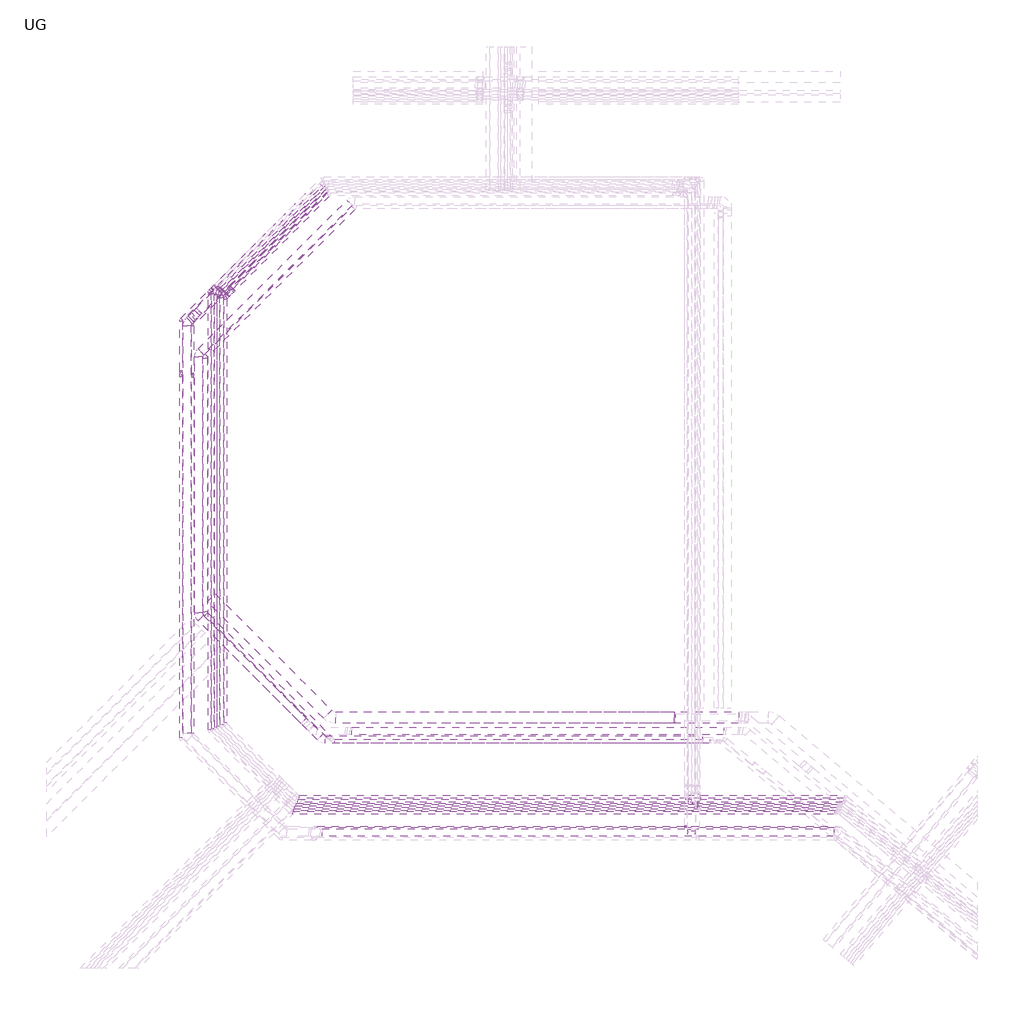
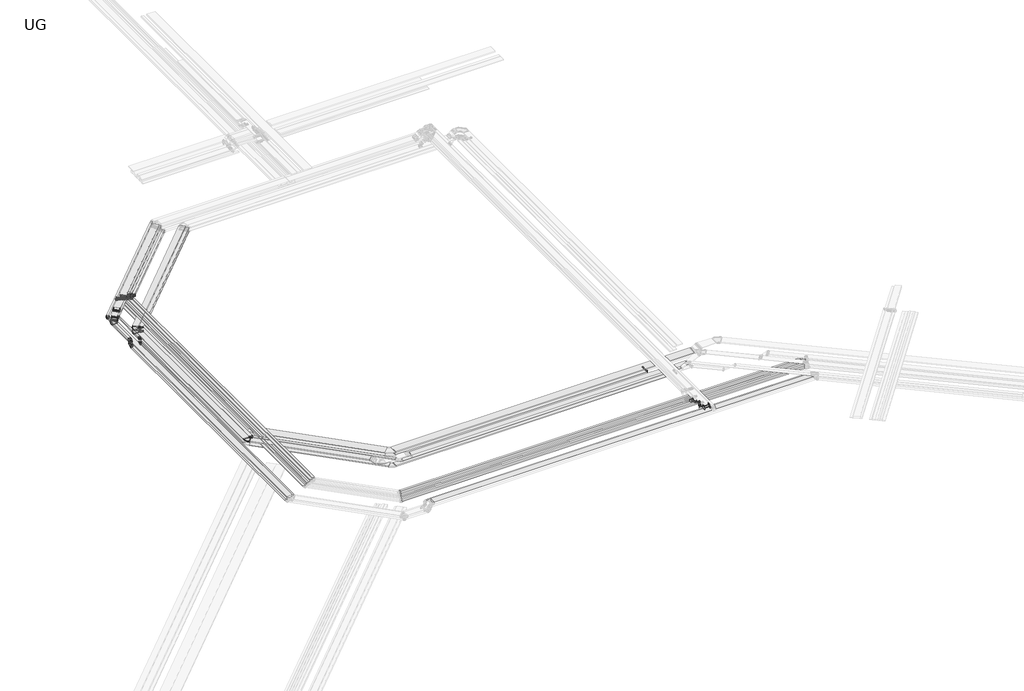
# One storey, part 2 of 14: 65 cable carrier segments, 39 cable carrier fittings.
"""IFC4 building model written with IfcOpenShell, lengths in millimetres."""

from ifc_helpers import new_model, si_unit, frame, origin, place, context, project, spatial, polyline, outline, extrude, transform, mapped, element, save
from components import cable_tray_horizontal_bend_a37de1d9, cable_tray_horizontal_bend_59db2054, cable_tray_horizontal_bend_460281a5, cable_tray_horizontal_bend_41a28480, cable_tray_horizontal_bend_607c76ad, cable_tray_horizontal_bend_0aeb7664, cable_tray_reducer_028fe2a6, cable_tray_vertical_inside_bend_8fcda462, cable_tray_vertical_inside_bend_649f0518, cable_tray_vertical_inside_bend_b78f05e6, cable_tray_vertical_inside_bend_96cfe16a, cable_tray_vertical_inside_bend_28401fa2, cable_tray_vertical_outside_bend_b526f006, cable_tray_vertical_outside_bend_0dbe7b70, cable_tray_vertical_outside_bend_a3d3d836, cable_tray_vertical_outside_bend_43f46f6e, cable_tray_vertical_outside_bend_ce2e8d87, cable_tray_vertical_outside_bend_4bfe5093

model = new_model("IFC4")

# Units and contexts
model_context = context("Model", 3, world=origin())
ifc_project = project(units=[si_unit("LENGTHUNIT", "METRE", prefix="MILLI")], contexts=[model_context])

# Site, building, storey
site = spatial("IfcSite", under=ifc_project)
building = spatial("IfcBuilding", under=site)
storey = spatial("IfcBuildingStorey", under=building, Name="UG", Elevation=7925.0)

# Cable carrier fittings
placement = place(None, origin())
cable_tray_horizontal_bend_shape = cable_tray_horizontal_bend_a37de1d9(model_context)
element("IfcCableCarrierFitting", 1, ObjectType="Cable Tray Horizontal Bend : ELEC_ELV_TKG_N2402", at=placement, inside=storey, context=model_context, shape_type="MappedRepresentation", body=[
    mapped(cable_tray_horizontal_bend_shape, transform((86156.0954238, 59185.2857855, 12725.0), x_axis=(-0.7071067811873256, -0.7071067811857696, 0.0), y_axis=(0.7071067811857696, -0.7071067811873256, 0.0), z_axis=(0.0, 0.0, 1.0))),
])
element("IfcCableCarrierFitting", 2, ObjectType="Cable Tray Horizontal Bend : ELEC_ELV_TKG_N2402", at=placement, inside=storey, context=model_context, shape_type="MappedRepresentation", body=[
    mapped(cable_tray_horizontal_bend_shape, transform((87218.5851935, 60884.1716584, 12674.9999995), x_axis=(-0.7071067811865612, -0.7071067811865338, 0.0), y_axis=(0.7071067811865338, -0.7071067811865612, 0.0), z_axis=(0.0, 0.0, 1.0))),
])
element("IfcCableCarrierFitting", 3, ObjectType="Cable Tray Horizontal Bend : ELEC_ELV_TKG_N2402", at=placement, inside=storey, context=model_context, shape_type="MappedRepresentation", body=[
    mapped(cable_tray_horizontal_bend_shape, transform((87368.5851935, 60822.039624, 12674.9999995), x_axis=(-0.7071067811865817, -0.7071067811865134, 0.0), y_axis=(0.7071067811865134, -0.7071067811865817, 0.0), z_axis=(0.0, 0.0, 1.0))),
])
element("IfcCableCarrierFitting", 4, ObjectType="Cable Tray Horizontal Bend : ELEC_ELV_TKG_N2402", at=placement, inside=storey, context=model_context, shape_type="MappedRepresentation", body=[
    mapped(cable_tray_horizontal_bend_shape, transform((87518.5851935, 60759.9075897, 12674.9999995), x_axis=(-0.7071067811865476, -0.7071067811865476, 0.0), y_axis=(0.7071067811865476, -0.7071067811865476, 0.0), z_axis=(0.0, 0.0, 1.0))),
])
cable_tray_horizontal_bend_2_shape = cable_tray_horizontal_bend_59db2054(model_context)
element("IfcCableCarrierFitting", 5, ObjectType="Cable Tray Horizontal Bend : ELEC_ELV_TKG_N2402", at=placement, inside=storey, context=model_context, shape_type="MappedRepresentation", body=[
    mapped(cable_tray_horizontal_bend_2_shape, transform((85531.0954284, 59444.1692666, 12750.0), x_axis=(-0.707106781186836, -0.7071067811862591, 0.0), y_axis=(0.7071067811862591, -0.707106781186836, 0.0), z_axis=(0.0, 0.0, 1.0))),
])
element("IfcCableCarrierFitting", 6, ObjectType="Cable Tray Horizontal Bend : ELEC_ELV_TKG_N2402", at=placement, inside=storey, context=model_context, shape_type="MappedRepresentation", body=[
    mapped(cable_tray_horizontal_bend_2_shape, transform((87693.5851935, 60687.4202162, 12699.9999995), x_axis=(-0.7071067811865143, -0.7071067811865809, 0.0), y_axis=(0.7071067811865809, -0.7071067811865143, 0.0), z_axis=(0.0, 0.0, 1.0))),
])
element("IfcCableCarrierFitting", 7, ObjectType="Cable Tray Horizontal Bend : ELEC_ELV_TKG_N2402", at=placement, inside=storey, context=model_context, shape_type="MappedRepresentation", body=[
    mapped(cable_tray_horizontal_bend_2_shape, transform((87893.5851935, 60604.5775038, 12699.9999995), x_axis=(-0.7071067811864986, -0.7071067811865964, 0.0), y_axis=(0.7071067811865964, -0.7071067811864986, 0.0), z_axis=(0.0, 0.0, 1.0))),
])
cable_tray_horizontal_bend_3_shape = cable_tray_horizontal_bend_460281a5(model_context)
element("IfcCableCarrierFitting", 8, ObjectType="Cable Tray Horizontal Bend : ELEC_ELV_TKG_N2402", at=placement, inside=storey, context=model_context, shape_type="MappedRepresentation", body=[
    mapped(cable_tray_horizontal_bend_3_shape, transform((85856.0954238, 59309.5498542, 12374.9999951), x_axis=(-0.7071067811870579, -0.7071067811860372, 0.0), y_axis=(0.7071067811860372, -0.7071067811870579, 0.0), z_axis=(0.0, 0.0, 1.0))),
])
cable_tray_horizontal_bend_4_shape = cable_tray_horizontal_bend_41a28480(model_context)
element("IfcCableCarrierFitting", 9, ObjectType="Cable Tray Horizontal Bend : ELEC_SUB_CT_N2402", at=placement, inside=storey, context=model_context, shape_type="MappedRepresentation", body=[
    mapped(cable_tray_horizontal_bend_4_shape, transform((86468.5851906, 57659.2979214, 12700.0), x_axis=(-0.7071067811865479, -0.7071067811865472, 0.0), y_axis=(0.7071067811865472, -0.7071067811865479, 0.0), z_axis=(0.0, 0.0, 1.0))),
])
element("IfcCableCarrierFitting", 10, ObjectType="Cable Tray Horizontal Bend : ELEC_SUB_CT_N2402", at=placement, inside=storey, context=model_context, shape_type="MappedRepresentation", body=[
    mapped(cable_tray_horizontal_bend_4_shape, transform((86468.5851906, 57659.2979214, 12424.9999997), x_axis=(-0.7071067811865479, -0.7071067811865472, 0.0), y_axis=(0.7071067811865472, -0.7071067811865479, 0.0), z_axis=(0.0, 0.0, 1.0))),
])
element("IfcCableCarrierFitting", 11, ObjectType="Cable Tray Horizontal Bend : ELEC_SUB_CT_N2402", at=placement, inside=storey, context=model_context, shape_type="MappedRepresentation", body=[
    mapped(cable_tray_horizontal_bend_4_shape, transform((86468.5851906, 43752.6744262, 12700.0), x_axis=(0.0, -1.0, 0.0), y_axis=(1.0, 0.0, 0.0), z_axis=(0.0, 0.0, 1.0))),
])
cable_tray_horizontal_bend_5_shape = cable_tray_horizontal_bend_607c76ad(model_context)
element("IfcCableCarrierFitting", 12, ObjectType="Cable Tray Horizontal Bend : ELEC_SUB_CT_N2402", at=placement, inside=storey, context=model_context, shape_type="MappedRepresentation", body=[
    mapped(cable_tray_horizontal_bend_5_shape, transform((86818.5851906, 57514.3231745, 12425.0), x_axis=(-0.707106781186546, -0.7071067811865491, 0.0), y_axis=(0.7071067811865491, -0.707106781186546, 0.0), z_axis=(0.0, 0.0, 1.0))),
])
element("IfcCableCarrierFitting", 13, ObjectType="Cable Tray Horizontal Bend : ELEC_SUB_CT_N2402", at=placement, inside=storey, context=model_context, shape_type="MappedRepresentation", body=[
    mapped(cable_tray_horizontal_bend_5_shape, transform((86818.5851906, 57514.3231745, 12700.0), x_axis=(-0.707106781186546, -0.707106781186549, 0.0), y_axis=(0.707106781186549, -0.707106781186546, 0.0), z_axis=(0.0, 0.0, 1.0))),
])
element("IfcCableCarrierFitting", 14, ObjectType="Cable Tray Horizontal Bend : ELEC_SUB_CT_N2402", at=placement, inside=storey, context=model_context, shape_type="MappedRepresentation", body=[
    mapped(cable_tray_horizontal_bend_5_shape, transform((86818.5851906, 43897.6491731, 12700.0), x_axis=(0.0, -1.0, 0.0), y_axis=(1.0, 0.0, 0.0), z_axis=(0.0, 0.0, 1.0))),
])
cable_tray_horizontal_bend_6_shape = cable_tray_horizontal_bend_0aeb7664(model_context)
element("IfcCableCarrierFitting", 15, ObjectType="Cable Tray Horizontal Bend : ELEC_ELV_CT_N2402", at=placement, inside=storey, context=model_context, shape_type="MappedRepresentation", body=[
    mapped(cable_tray_horizontal_bend_6_shape, transform((87043.5851935, 60956.6590318, 12649.9999995), x_axis=(-0.7071067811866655, -0.7071067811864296, 0.0), y_axis=(0.7071067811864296, -0.7071067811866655, 0.0), z_axis=(0.0, 0.0, 1.0))),
])
cable_tray_reducer_shape = cable_tray_reducer_028fe2a6(model_context)
element("IfcCableCarrierFitting", 16, ObjectType="Cable Tray Reducer : ELEC_SUB_CT_N2402", at=placement, inside=storey, context=model_context, shape_type="MappedRepresentation", body=[
    mapped(cable_tray_reducer_shape, transform((111768.5345029, 38350.0000005, 12424.9999994), x_axis=(-1.0, 0.0, 0.0), y_axis=(0.0, -1.0, 0.0), z_axis=(0.0, 0.0, 1.0))),
])
cable_tray_vertical_inside_bend_shape = cable_tray_vertical_inside_bend_8fcda462(model_context)
element("IfcCableCarrierFitting", 17, ObjectType="Cable Tray Vertical Inside Bend : ELEC_ELV_CT_N2402", at=placement, inside=storey, context=model_context, shape_type="MappedRepresentation", body=[
    mapped(cable_tray_vertical_inside_bend_shape, transform((87358.4965816, 61271.5704199, 12424.9999995), x_axis=(0.500000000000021, 0.49999999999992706, -0.7071067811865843), y_axis=(0.5000000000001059, 0.4999999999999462, 0.7071067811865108), z_axis=(0.707106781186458, -0.7071067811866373, 0.0))),
])
cable_tray_vertical_inside_bend_2_shape = cable_tray_vertical_inside_bend_649f0518(model_context)
element("IfcCableCarrierFitting", 18, ObjectType="Cable Tray Vertical Inside Bend : ELEC_ELV_TKG_N2402", at=placement, inside=storey, context=model_context, shape_type="MappedRepresentation", body=[
    mapped(cable_tray_vertical_inside_bend_2_shape, transform((87512.61976, 61178.2062249, 12449.9999995), x_axis=(-0.707106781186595, -0.7071067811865, 0.0), y_axis=(0.0, 0.0, 1.0), z_axis=(-0.7071067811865, 0.707106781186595, 0.0))),
])
element("IfcCableCarrierFitting", 19, ObjectType="Cable Tray Vertical Inside Bend : ELEC_ELV_TKG_N2402", at=placement, inside=storey, context=model_context, shape_type="MappedRepresentation", body=[
    mapped(cable_tray_vertical_inside_bend_2_shape, transform((87618.6857772, 61072.1402077, 12449.9999995), x_axis=(0.0, 0.0, -1.0), y_axis=(0.7071067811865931, 0.707106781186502, 0.0), z_axis=(0.707106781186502, -0.7071067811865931, 0.0))),
])
element("IfcCableCarrierFitting", 20, ObjectType="Cable Tray Vertical Inside Bend : ELEC_ELV_TKG_N2402", at=placement, inside=storey, context=model_context, shape_type="MappedRepresentation", body=[
    mapped(cable_tray_vertical_inside_bend_2_shape, transform((87724.7517944, 60966.0741905, 12449.9999995), x_axis=(0.0, 0.0, -1.0), y_axis=(0.7071067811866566, 0.7071067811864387, 0.0), z_axis=(0.7071067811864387, -0.7071067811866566, 0.0))),
])
element("IfcCableCarrierFitting", 21, ObjectType="Cable Tray Vertical Inside Bend : ELEC_ELV_TKG_N2402", at=placement, inside=storey, context=model_context, shape_type="MappedRepresentation", body=[
    mapped(cable_tray_vertical_inside_bend_2_shape, transform((112872.323276, 33619.1008552, 12374.9999995), x_axis=(0.0, -1.0, 0.0), y_axis=(0.0, 0.0, 1.0), z_axis=(-1.0, 0.0, 0.0))),
])
element("IfcCableCarrierFitting", 22, ObjectType="Cable Tray Vertical Inside Bend : ELEC_ELV_TKG_N2402", at=placement, inside=storey, context=model_context, shape_type="MappedRepresentation", body=[
    mapped(cable_tray_vertical_inside_bend_2_shape, transform((112722.323276, 33769.1008552, 12375.0), x_axis=(0.0, -1.0, 0.0), y_axis=(0.0, 0.0, 1.0), z_axis=(-1.0, 0.0, 0.0))),
])
element("IfcCableCarrierFitting", 23, ObjectType="Cable Tray Vertical Inside Bend : ELEC_ELV_TKG_N2402", at=placement, inside=storey, context=model_context, shape_type="MappedRepresentation", body=[
    mapped(cable_tray_vertical_inside_bend_2_shape, transform((86156.0954238, 56523.458582, 12349.9999951), x_axis=(0.0, 1.0, 0.0), y_axis=(0.0, 0.0, 1.0), z_axis=(1.0, 0.0, 0.0))),
])
cable_tray_vertical_inside_bend_3_shape = cable_tray_vertical_inside_bend_b78f05e6(model_context)
element("IfcCableCarrierFitting", 24, ObjectType="Cable Tray Vertical Inside Bend : ELEC_ELV_TKG_N2402", at=placement, inside=storey, context=model_context, shape_type="MappedRepresentation", body=[
    mapped(cable_tray_vertical_inside_bend_3_shape, transform((88322.7918172, 61033.7841275, 12474.9999995), x_axis=(0.61237243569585, 0.612372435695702, -0.5000000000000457), y_axis=(0.35355339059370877, 0.3535533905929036, 0.8660254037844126), z_axis=(0.7071067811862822, -0.707106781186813, 0.0))),
])
element("IfcCableCarrierFitting", 25, ObjectType="Cable Tray Vertical Inside Bend : ELEC_ELV_TKG_N2402", at=placement, inside=storey, context=model_context, shape_type="MappedRepresentation", body=[
    mapped(cable_tray_vertical_inside_bend_3_shape, transform((88181.370461, 61175.2054837, 12474.9999995), x_axis=(0.6123724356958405, 0.6123724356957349, -0.5000000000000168), y_axis=(0.3535533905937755, 0.35355339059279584, 0.866025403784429), z_axis=(0.7071067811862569, -0.7071067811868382, 0.0))),
])
cable_tray_vertical_inside_bend_4_shape = cable_tray_vertical_inside_bend_96cfe16a(model_context)
element("IfcCableCarrierFitting", 26, ObjectType="Cable Tray Vertical Inside Bend : ELEC_ELV_TKG_N2402", at=placement, inside=storey, context=model_context, shape_type="MappedRepresentation", body=[
    mapped(cable_tray_vertical_inside_bend_4_shape, transform((86138.1640807, 59591.6185111, 12374.9999951), x_axis=(0.7071067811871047, 0.7071067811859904, 0.0), y_axis=(0.0, 0.0, 1.0), z_axis=(0.7071067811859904, -0.7071067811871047, 0.0))),
])
cable_tray_vertical_inside_bend_5_shape = cable_tray_vertical_inside_bend_28401fa2(model_context)
element("IfcCableCarrierFitting", 27, ObjectType="Cable Tray Vertical Inside Bend : ELEC_ELV_TKG_N2402", at=placement, inside=storey, context=model_context, shape_type="MappedRepresentation", body=[
    mapped(cable_tray_vertical_inside_bend_5_shape, transform((112547.323276, 33944.1008552, 12400.0), x_axis=(0.0, -1.0, 0.0), y_axis=(0.0, 0.0, 1.0), z_axis=(-1.0, 0.0, 0.0))),
])
element("IfcCableCarrierFitting", 28, ObjectType="Cable Tray Vertical Inside Bend : ELEC_ELV_TKG_N2402", at=placement, inside=storey, context=model_context, shape_type="MappedRepresentation", body=[
    mapped(cable_tray_vertical_inside_bend_5_shape, transform((85531.0954284, 56594.1692601, 12374.9999997), x_axis=(0.0, 1.0, 0.0), y_axis=(0.0, 0.0, 1.0), z_axis=(1.0, 0.0, 0.0))),
])
cable_tray_vertical_outside_bend_shape = cable_tray_vertical_outside_bend_b526f006(model_context)
element("IfcCableCarrierFitting", 29, ObjectType="Cable Tray Vertical Outside Bend : ELEC_ELV_TKG_N2402", at=placement, inside=storey, context=model_context, shape_type="MappedRepresentation", body=[
    mapped(cable_tray_vertical_outside_bend_shape, transform((85531.0954284, 56594.1692601, 12750.0), x_axis=(0.0, -1.0, 0.0), y_axis=(0.0, 0.0, -1.0), z_axis=(1.0, 0.0, 0.0))),
])
cable_tray_vertical_outside_bend_2_shape = cable_tray_vertical_outside_bend_0dbe7b70(model_context)
element("IfcCableCarrierFitting", 30, ObjectType="Cable Tray Vertical Outside Bend : ELEC_ELV_TKG_N2402", at=placement, inside=storey, context=model_context, shape_type="MappedRepresentation", body=[
    mapped(cable_tray_vertical_outside_bend_2_shape, transform((87512.61976, 61178.2062249, 12674.9999995), x_axis=(0.0, 0.0, 1.0), y_axis=(-0.7071067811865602, -0.7071067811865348, 0.0), z_axis=(0.7071067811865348, -0.7071067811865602, 0.0))),
])
element("IfcCableCarrierFitting", 31, ObjectType="Cable Tray Vertical Outside Bend : ELEC_ELV_TKG_N2402", at=placement, inside=storey, context=model_context, shape_type="MappedRepresentation", body=[
    mapped(cable_tray_vertical_outside_bend_2_shape, transform((87618.6857772, 61072.1402077, 12674.9999995), x_axis=(0.0, 0.0, 1.0), y_axis=(-0.7071067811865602, -0.7071067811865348, 0.0), z_axis=(0.7071067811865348, -0.7071067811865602, 0.0))),
])
element("IfcCableCarrierFitting", 32, ObjectType="Cable Tray Vertical Outside Bend : ELEC_ELV_TKG_N2402", at=placement, inside=storey, context=model_context, shape_type="MappedRepresentation", body=[
    mapped(cable_tray_vertical_outside_bend_2_shape, transform((87724.7517944, 60966.0741905, 12674.9999995), x_axis=(0.0, 0.0, 1.0), y_axis=(-0.7071067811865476, -0.7071067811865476, 0.0), z_axis=(0.7071067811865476, -0.7071067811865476, 0.0))),
])
element("IfcCableCarrierFitting", 33, ObjectType="Cable Tray Vertical Outside Bend : ELEC_ELV_TKG_N2402", at=placement, inside=storey, context=model_context, shape_type="MappedRepresentation", body=[
    mapped(cable_tray_vertical_outside_bend_2_shape, transform((112322.3232791, 32544.1008473, 13025.0), x_axis=(0.0, -1.0, 0.0), y_axis=(0.0, 0.0, -1.0), z_axis=(1.0, 0.0, 0.0))),
])
element("IfcCableCarrierFitting", 34, ObjectType="Cable Tray Vertical Outside Bend : ELEC_ELV_TKG_N2402", at=placement, inside=storey, context=model_context, shape_type="MappedRepresentation", body=[
    mapped(cable_tray_vertical_outside_bend_2_shape, transform((86156.0954238, 56523.458582, 12725.0), x_axis=(0.0, -1.0, 0.0), y_axis=(0.0, 0.0, -1.0), z_axis=(1.0, 0.0, 0.0))),
])
cable_tray_vertical_outside_bend_3_shape = cable_tray_vertical_outside_bend_a3d3d836(model_context)
element("IfcCableCarrierFitting", 35, ObjectType="Cable Tray Vertical Outside Bend : ELEC_ELV_TKG_N2402", at=placement, inside=storey, context=model_context, shape_type="MappedRepresentation", body=[
    mapped(cable_tray_vertical_outside_bend_3_shape, transform((86403.3291271, 59856.7835575, 12750.0), x_axis=(-0.7071067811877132, -0.7071067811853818, 0.0), y_axis=(0.0, 0.0, -1.0), z_axis=(0.7071067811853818, -0.7071067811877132, 0.0))),
])
cable_tray_vertical_outside_bend_4_shape = cable_tray_vertical_outside_bend_43f46f6e(model_context)
element("IfcCableCarrierFitting", 36, ObjectType="Cable Tray Vertical Outside Bend : ELEC_ELV_TKG_N2402", at=placement, inside=storey, context=model_context, shape_type="MappedRepresentation", body=[
    mapped(cable_tray_vertical_outside_bend_4_shape, transform((112622.3232791, 32244.1008519, 13050.0), x_axis=(0.0, -1.0, 0.0), y_axis=(0.0, 0.0, -1.0), z_axis=(1.0, 0.0, 0.0))),
])
cable_tray_vertical_outside_bend_5_shape = cable_tray_vertical_outside_bend_ce2e8d87(model_context)
element("IfcCableCarrierFitting", 37, ObjectType="Cable Tray Vertical Outside Bend : ELEC_ELV_CT_N2402", at=placement, inside=storey, context=model_context, shape_type="MappedRepresentation", body=[
    mapped(cable_tray_vertical_outside_bend_5_shape, transform((87199.3975559, 61112.4713941, 12649.9999995), x_axis=(0.707106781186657, 0.7071067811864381, 0.0), y_axis=(0.0, 0.0, -1.0), z_axis=(-0.7071067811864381, 0.707106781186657, 0.0))),
])
cable_tray_vertical_outside_bend_6_shape = cable_tray_vertical_outside_bend_4bfe5093(model_context)
element("IfcCableCarrierFitting", 38, ObjectType="Cable Tray Vertical Outside Bend : ELEC_ELV_TKG_N2402", at=placement, inside=storey, context=model_context, shape_type="MappedRepresentation", body=[
    mapped(cable_tray_vertical_outside_bend_6_shape, transform((87905.8028649, 60899.6378877, 12699.9999995), x_axis=(-0.6123724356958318, -0.6123724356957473, 0.5000000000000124), y_axis=(-0.35355339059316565, -0.35355339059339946, -0.8660254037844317), z_axis=(0.7071067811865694, -0.7071067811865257, 0.0))),
])
element("IfcCableCarrierFitting", 39, ObjectType="Cable Tray Vertical Outside Bend : ELEC_ELV_TKG_N2402", at=placement, inside=storey, context=model_context, shape_type="MappedRepresentation", body=[
    mapped(cable_tray_vertical_outside_bend_6_shape, transform((88047.2242212, 60758.2165314, 12699.9999995), x_axis=(-0.6123724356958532, -0.6123724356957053, 0.5000000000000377), y_axis=(-0.35355339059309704, -0.353553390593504, -0.8660254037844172), z_axis=(0.7071067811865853, -0.7071067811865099, 0.0))),
])

# Cable carrier segments
element("IfcCableCarrierSegment", 40, ObjectType="ELEC_ELV_TKG_N2402", at=placement, inside=storey, context=model_context, shape_type="SweptSolid", body=[
    extrude(outline(polyline([(85606.0954284, 37283.8343952), (85456.0954284, 37283.8343952), (85456.0954284, 56444.1692601), (85606.0954284, 56444.1692601), (85606.0954284, 37283.8343952)])), frame((0.0, 0.0, 12299.9999997), z_axis=(0.0, 0.0, 1.0), x_axis=(1.0, 0.0, 0.0)), (0.0, 0.0, 1.0), 150.0),
])
element("IfcCableCarrierSegment", 41, ObjectType="ELEC_ELV_TKG_N2402", at=placement, inside=storey, context=model_context, shape_type="SweptSolid", body=[
    extrude(outline(polyline([(86056.0954238, 37522.0071917), (85656.0954238, 37522.0071917), (85656.0954238, 59143.8644293), (86056.0954238, 59143.8644293), (86056.0954238, 37522.0071917)])), frame((0.0, 0.0, 12299.9999951), z_axis=(0.0, 0.0, 1.0), x_axis=(1.0, 0.0, 0.0)), (0.0, 0.0, 1.0), 150.0),
])
element("IfcCableCarrierSegment", 42, ObjectType="ELEC_ELV_TKG_N2402", at=placement, inside=storey, context=model_context, shape_type="SweptSolid", body=[
    extrude(outline(polyline([(86106.0954238, 56423.458582), (86206.0954238, 56423.458582), (86206.0954238, 37522.0071917), (86106.0954238, 37522.0071917), (86106.0954238, 56423.458582)])), frame((0.0, 0.0, 12299.9999951), z_axis=(0.0, 0.0, 1.0), x_axis=(1.0, 0.0, 0.0)), (0.0, 0.0, 1.0), 100.0),
])
element("IfcCableCarrierSegment", 43, ObjectType="ELEC_ELV_TKG_N2402", at=placement, inside=storey, context=model_context, shape_type="SweptSolid", body=[
    extrude(outline(polyline([(86625.2961185, 59795.9078365), (86342.453406, 60078.7505489), (92928.0862902, 66664.3834331), (93210.9290027, 66381.5407206), (86625.2961185, 59795.9078365)])), frame((0.0, 0.0, 12675.0), z_axis=(0.0, 0.0, 1.0), x_axis=(1.0, 0.0, 0.0)), (0.0, 0.0, 1.0), 150.0),
])
element("IfcCableCarrierSegment", 44, ObjectType="ELEC_SUB_CT_N2402", at=placement, inside=storey, context=model_context, shape_type="SweptSolid", body=[
    extrude(outline(polyline([(113201.9985588, 37399.6217937), (113201.9985588, 36999.6217937), (93187.3232481, 36999.6217937), (93187.3232481, 37399.6217937), (113201.9985588, 37399.6217937)])), frame((0.0, 0.0, 12400.0000001), z_axis=(0.0, 0.0, 1.0), x_axis=(1.0, 0.0, 0.0)), (0.0, 0.0, 1.0), 50.0),
])
element("IfcCableCarrierSegment", 45, ObjectType="ELEC_SUB_CT_N2402", at=placement, inside=storey, context=model_context, shape_type="SweptSolid", body=[
    extrude(outline(polyline([(114337.1534405, 37849.6217937), (114337.1534405, 37449.6217937), (94607.6118762, 37449.6217937), (94607.6118762, 37849.6217937), (114337.1534405, 37849.6217937)])), frame((0.0, 0.0, 12400.0000001), z_axis=(0.0, 0.0, 1.0), x_axis=(1.0, 0.0, 0.0)), (0.0, 0.0, 1.0), 50.0),
])
element("IfcCableCarrierSegment", 46, ObjectType="ELEC_SUB_CT_N2402", at=placement, inside=storey, context=model_context, shape_type="SweptSolid", body=[
    extrude(outline(polyline([(113585.7502517, 37199.6217937), (113585.7502517, 36999.6217937), (93699.4552824, 36999.6217937), (93699.4552824, 37199.6217937), (113585.7502517, 37199.6217937)])), frame((0.0, 0.0, 12625.0), z_axis=(0.0, 0.0, 1.0), x_axis=(1.0, 0.0, 0.0)), (0.0, 0.0, 1.0), 50.0),
])
element("IfcCableCarrierSegment", 47, ObjectType="ELEC_SUB_CT_N2402", at=placement, inside=storey, context=model_context, shape_type="SweptSolid", body=[
    extrude(outline(polyline([(93746.1333505, 38050.0000005), (93746.1333505, 38650.0000005), (115119.0498629, 38650.0000005), (115119.0498629, 38050.0000005), (93746.1333505, 38050.0000005)])), frame((0.0, 0.0, 12624.9999997), z_axis=(0.0, 0.0, 1.0), x_axis=(1.0, 0.0, 0.0)), (0.0, 0.0, 1.0), 50.0),
])
element("IfcCableCarrierSegment", 48, ObjectType="ELEC_SUB_CT_N2402", at=placement, inside=storey, context=model_context, shape_type="SweptSolid", body=[
    extrude(outline(polyline([(111718.5345029, 38650.0000005), (111718.5345029, 38050.0000005), (93746.1333505, 38050.0000005), (93746.1333505, 38650.0000005), (111718.5345029, 38650.0000005)])), frame((0.0, 0.0, 12399.9999994), z_axis=(0.0, 0.0, 1.0), x_axis=(1.0, 0.0, 0.0)), (0.0, 0.0, 1.0), 50.0),
])
element("IfcCableCarrierSegment", 49, ObjectType="ELEC_SUB_CT_N2402", at=placement, inside=storey, context=model_context, shape_type="SweptSolid", body=[
    extrude(outline(polyline([(92186.0604192, 38318.0419101), (91903.2177067, 38035.1991976), (86444.3211219, 43494.0957825), (86727.1638343, 43776.9384949), (92186.0604192, 38318.0419101)])), frame((0.0, 0.0, 12675.0), z_axis=(0.0, 0.0, 1.0), x_axis=(1.0, 0.0, 0.0)), (0.0, 0.0, 1.0), 50.0),
])
element("IfcCableCarrierSegment", 50, ObjectType="ELEC_SUB_CT_N2402", at=placement, inside=storey, context=model_context, shape_type="SweptSolid", body=[
    extrude(outline(polyline([(93434.9003075, 37422.7554124), (93293.4789512, 37281.3340562), (86806.4531562, 43768.3598512), (86947.8745125, 43909.7812074), (93434.9003075, 37422.7554124)])), frame((0.0, 0.0, 12675.0), z_axis=(0.0, 0.0, 1.0), x_axis=(1.0, 0.0, 0.0)), (0.0, 0.0, 1.0), 50.0),
])
element("IfcCableCarrierSegment", 51, ObjectType="ELEC_SUB_CT_N2402", at=placement, inside=storey, context=model_context, shape_type="SweptSolid", body=[
    extrude(outline(polyline([(86668.5851906, 43918.3598512), (86268.5851906, 43918.3598512), (86268.5851906, 57493.6124964), (86668.5851906, 57493.6124964), (86668.5851906, 43918.3598512)])), frame((0.0, 0.0, 12675.0), z_axis=(0.0, 0.0, 1.0), x_axis=(1.0, 0.0, 0.0)), (0.0, 0.0, 1.0), 50.0),
])
element("IfcCableCarrierSegment", 52, ObjectType="ELEC_SUB_CT_N2402", at=placement, inside=storey, context=model_context, shape_type="SweptSolid", body=[
    extrude(outline(polyline([(86918.5851906, 43980.4918855), (86718.5851906, 43980.4918855), (86718.5851906, 57431.4804621), (86918.5851906, 57431.4804621), (86918.5851906, 43980.4918855)])), frame((0.0, 0.0, 12675.0), z_axis=(0.0, 0.0, 1.0), x_axis=(1.0, 0.0, 0.0)), (0.0, 0.0, 1.0), 50.0),
])
element("IfcCableCarrierSegment", 53, ObjectType="ELEC_SUB_CT_N2402", at=placement, inside=storey, context=model_context, shape_type="SweptSolid", body=[
    extrude(outline(polyline([(86727.1638343, 57635.0338527), (86444.3211219, 57917.8765651), (94340.8279823, 65814.3834256), (94623.6706948, 65531.5407131), (86727.1638343, 57635.0338527)])), frame((0.0, 0.0, 12675.0), z_axis=(0.0, 0.0, 1.0), x_axis=(1.0, 0.0, 0.0)), (0.0, 0.0, 1.0), 50.0),
])
element("IfcCableCarrierSegment", 54, ObjectType="ELEC_ELV_TKG_N2402", at=placement, inside=storey, context=model_context, shape_type="SweptSolid", body=[
    extrude(outline(polyline([(120667.3561317, 34019.1008552), (120667.3561317, 33869.1008552), (91734.6114327, 33869.1008552), (91734.6114327, 34019.1008552), (120667.3561317, 34019.1008552)])), frame((0.0, 0.0, 12624.9999995), z_axis=(0.0, 0.0, 1.0), x_axis=(1.0, 0.0, 0.0)), (0.0, 0.0, 1.0), 150.0),
])
element("IfcCableCarrierSegment", 55, ObjectType="ELEC_ELV_TKG_N2402", at=placement, inside=storey, context=model_context, shape_type="SweptSolid", body=[
    extrude(outline(polyline([(120740.1501786, 34219.1008552), (120740.1501786, 34069.1008552), (91817.4541452, 34069.1008552), (91817.4541452, 34219.1008552), (120740.1501786, 34219.1008552)])), frame((0.0, 0.0, 12624.9999995), z_axis=(0.0, 0.0, 1.0), x_axis=(1.0, 0.0, 0.0)), (0.0, 0.0, 1.0), 150.0),
])
element("IfcCableCarrierSegment", 56, ObjectType="ELEC_ELV_TKG_N2402", at=placement, inside=storey, context=model_context, shape_type="SweptSolid", body=[
    extrude(outline(polyline([(120312.1302103, 33519.1008552), (120312.1302103, 33419.1008552), (91517.1493125, 33419.1008552), (91517.1493125, 33519.1008552), (120312.1302103, 33519.1008552)])), frame((0.0, 0.0, 12624.9999995), z_axis=(0.0, 0.0, 1.0), x_axis=(1.0, 0.0, 0.0)), (0.0, 0.0, 1.0), 100.0),
])
element("IfcCableCarrierSegment", 57, ObjectType="ELEC_ELV_TKG_N2402", at=placement, inside=storey, context=model_context, shape_type="SweptSolid", body=[
    extrude(outline(polyline([(120366.7257455, 33669.1008552), (120366.7257455, 33569.1008552), (91579.2813469, 33569.1008552), (91579.2813469, 33669.1008552), (120366.7257455, 33669.1008552)])), frame((0.0, 0.0, 12624.9999995), z_axis=(0.0, 0.0, 1.0), x_axis=(1.0, 0.0, 0.0)), (0.0, 0.0, 1.0), 100.0),
])
element("IfcCableCarrierSegment", 58, ObjectType="ELEC_ELV_TKG_N2402", at=placement, inside=storey, context=model_context, shape_type="SweptSolid", body=[
    extrude(outline(polyline([(120421.3212806, 33819.1008552), (120421.3212806, 33719.1008552), (91641.4133812, 33719.1008552), (91641.4133812, 33819.1008552), (120421.3212806, 33819.1008552)])), frame((0.0, 0.0, 12624.9999995), z_axis=(0.0, 0.0, 1.0), x_axis=(1.0, 0.0, 0.0)), (0.0, 0.0, 1.0), 100.0),
])
element("IfcCableCarrierSegment", 59, ObjectType="ELEC_ELV_CT_N2402", at=placement, inside=storey, context=model_context, shape_type="SweptSolid", body=[
    extrude(outline(polyline([(120209.5260476, 33369.1008552), (120209.5260476, 33219.1008552), (91465.3726172, 33219.1008552), (91465.3726172, 33369.1008552), (120209.5260476, 33369.1008552)])), frame((0.0, 0.0, 12624.9999995), z_axis=(0.0, 0.0, 1.0), x_axis=(1.0, 0.0, 0.0)), (0.0, 0.0, 1.0), 50.0),
])
element("IfcCableCarrierSegment", 60, ObjectType="ELEC_ELV_TKG_N2402", at=placement, inside=storey, context=model_context, shape_type="SweptSolid", body=[
    extrude(outline(polyline([(120247.1879745, 32594.1008473), (120247.1879745, 32494.1008473), (92768.3163386, 32494.1008473), (92768.3163386, 32594.1008473), (120247.1879745, 32594.1008473)])), frame((0.0, 0.0, 12624.9999908), z_axis=(0.0, 0.0, 1.0), x_axis=(1.0, 0.0, 0.0)), (0.0, 0.0, 1.0), 100.0),
])
element("IfcCableCarrierSegment", 61, ObjectType="ELEC_SUB_CT_N2402", at=placement, inside=storey, context=model_context, shape_type="SweptSolid", body=[
    extrude(outline(polyline([(86918.5851906, 43980.4918855), (86718.5851906, 43980.4918855), (86718.5851906, 57431.4804621), (86918.5851906, 57431.4804621), (86918.5851906, 43980.4918855)])), frame((0.0, 0.0, 12400.0), z_axis=(0.0, 0.0, 1.0), x_axis=(1.0, 0.0, 0.0)), (0.0, 0.0, 1.0), 50.0),
])
element("IfcCableCarrierSegment", 62, ObjectType="ELEC_SUB_CT_N2402", at=placement, inside=storey, context=model_context, shape_type="SweptSolid", body=[
    extrude(outline(polyline([(86947.8745125, 57502.1911402), (86806.4531562, 57643.6124964), (94615.092051, 65452.2513912), (94756.5134072, 65310.830035), (86947.8745125, 57502.1911402)])), frame((0.0, 0.0, 12400.0), z_axis=(0.0, 0.0, 1.0), x_axis=(1.0, 0.0, 0.0)), (0.0, 0.0, 1.0), 50.0),
])
element("IfcCableCarrierSegment", 63, ObjectType="ELEC_SUB_CT_N2402", at=placement, inside=storey, context=model_context, shape_type="SweptSolid", body=[
    extrude(outline(polyline([(93534.0013161, 38737.8679661), (93109.7372474, 38313.6038974), (86920.1936921, 44503.1474527), (87344.4577608, 44927.4115214), (93534.0013161, 38737.8679661)])), frame((0.0, 0.0, 12624.9999997), z_axis=(0.0, 0.0, 1.0), x_axis=(1.0, 0.0, 0.0)), (0.0, 0.0, 1.0), 50.0),
])
element("IfcCableCarrierSegment", 64, ObjectType="ELEC_SUB_CT_N2402", at=placement, inside=storey, context=model_context, shape_type="SweptSolid", body=[
    extrude(outline(polyline([(93534.0013161, 38737.8679661), (93109.7372474, 38313.6038974), (86920.1936921, 44503.1474527), (87344.4577608, 44927.4115214), (93534.0013161, 38737.8679661)])), frame((0.0, 0.0, 12399.9999994), z_axis=(0.0, 0.0, 1.0), x_axis=(1.0, 0.0, 0.0)), (0.0, 0.0, 1.0), 50.0),
])
element("IfcCableCarrierSegment", 65, ObjectType="ELEC_ELV_TKG_N2402", at=placement, inside=storey, context=model_context, shape_type="SweptSolid", body=[
    extrude(outline(polyline([(86114.6740676, 59285.2857855), (85831.8313551, 59568.128498), (85916.1970893, 59652.4942322), (86199.0398017, 59369.6515197), (86114.6740676, 59285.2857855)])), frame((0.0, 0.0, 12299.9999951), z_axis=(0.0, 0.0, 1.0), x_axis=(1.0, 0.0, 0.0)), (0.0, 0.0, 1.0), 150.0),
])
element("IfcCableCarrierSegment", 66, ObjectType="ELEC_ELV_TKG_N2402", at=placement, inside=storey, context=model_context, shape_type="SweptSolid", body=[
    extrude(outline(polyline([(206.6005863, 159.3672833), (119.998046, 36.8927962), (-206.6005863, 267.8329039), (-119.998046, 390.307391), (206.6005863, 159.3672833)])), frame((86195.1184455, 59474.1691298, 12578.8677018), z_axis=(0.5000000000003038, 0.4999999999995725, 0.707106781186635), x_axis=(0.8660254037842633, -0.2886751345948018, -0.4082482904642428)), (0.0, 0.0, 1.0), 302.5126336),
])
element("IfcCableCarrierSegment", 67, ObjectType="ELEC_ELV_TKG_N2402", at=placement, inside=storey, context=model_context, shape_type="SweptSolid", body=[
    extrude(outline(polyline([(85628.0624198, 59435.0702408), (85521.9964026, 59541.136258), (92955.0785302, 66974.2183856), (93061.1445474, 66868.1523684), (85628.0624198, 59435.0702408)])), frame((0.0, 0.0, 12675.0), z_axis=(0.0, 0.0, 1.0), x_axis=(1.0, 0.0, 0.0)), (0.0, 0.0, 1.0), 150.0),
])
element("IfcCableCarrierSegment", 68, ObjectType="ELEC_ELV_TKG_N2402", at=placement, inside=storey, context=model_context, shape_type="SweptSolid", body=[
    extrude(outline(polyline([(86206.0954238, 56573.458582), (86206.0954238, 56473.458582), (86106.0954238, 56473.458582), (86106.0954238, 56573.458582), (86206.0954238, 56573.458582)])), frame((0.0, 0.0, 12449.9999951), z_axis=(0.0, 0.0, 1.0), x_axis=(1.0, 0.0, 0.0)), (0.0, 0.0, 1.0), 175.0000049),
])
element("IfcCableCarrierSegment", 69, ObjectType="ELEC_ELV_TKG_N2402", at=placement, inside=storey, context=model_context, shape_type="SweptSolid", body=[
    extrude(outline(polyline([(86206.0954238, 56623.458582), (86106.0954238, 56623.458582), (86106.0954238, 59143.8644293), (86206.0954238, 59143.8644293), (86206.0954238, 56623.458582)])), frame((0.0, 0.0, 12675.0), z_axis=(0.0, 0.0, 1.0), x_axis=(1.0, 0.0, 0.0)), (0.0, 0.0, 1.0), 100.0),
])
element("IfcCableCarrierSegment", 70, ObjectType="ELEC_ELV_TKG_N2402", at=placement, inside=storey, context=model_context, shape_type="SweptSolid", body=[
    extrude(outline(polyline([(85606.0954284, 56744.1692601), (85456.0954284, 56744.1692601), (85456.0954284, 59382.0372322), (85606.0954284, 59382.0372322), (85606.0954284, 56744.1692601)])), frame((0.0, 0.0, 12675.0), z_axis=(0.0, 0.0, 1.0), x_axis=(1.0, 0.0, 0.0)), (0.0, 0.0, 1.0), 150.0),
])
element("IfcCableCarrierSegment", 71, ObjectType="ELEC_ELV_TKG_N2402", at=placement, inside=storey, context=model_context, shape_type="SweptSolid", body=[
    extrude(outline(polyline([(85606.0954284, 56669.1692601), (85606.0954284, 56519.1692601), (85456.0954284, 56519.1692601), (85456.0954284, 56669.1692601), (85606.0954284, 56669.1692601)])), frame((0.0, 0.0, 12524.9999997), z_axis=(0.0, 0.0, 1.0), x_axis=(1.0, 0.0, 0.0)), (0.0, 0.0, 1.0), 75.0000003),
])
element("IfcCableCarrierSegment", 72, ObjectType="ELEC_ELV_TKG_N2402", at=placement, inside=storey, context=model_context, shape_type="SweptSolid", body=[
    extrude(outline(polyline([(88092.9821134, 61051.461797), (88022.2714353, 61122.1724751), (93246.2843418, 66346.1853816), (93316.9950199, 66275.4747035), (88092.9821134, 61051.461797)])), frame((0.0, 0.0, 12675.0), z_axis=(0.0, 0.0, 1.0), x_axis=(1.0, 0.0, 0.0)), (0.0, 0.0, 1.0), 100.0),
])
element("IfcCableCarrierSegment", 73, ObjectType="ELEC_SUB_CT_N2402", at=placement, inside=storey, context=model_context, shape_type="SweptSolid", body=[
    extrude(outline(polyline([(86947.8745125, 57502.1911402), (86806.4531562, 57643.6124964), (94615.092051, 65452.2513912), (94756.5134072, 65310.830035), (86947.8745125, 57502.1911402)])), frame((0.0, 0.0, 12675.0), z_axis=(0.0, 0.0, 1.0), x_axis=(1.0, 0.0, 0.0)), (0.0, 0.0, 1.0), 50.0),
])
element("IfcCableCarrierSegment", 74, ObjectType="ELEC_SUB_CT_N2402", at=placement, inside=storey, context=model_context, shape_type="SweptSolid", body=[
    extrude(outline(polyline([(0.0, -400.0), (0.0, 0.0), (8936.0450579, -1e-07), (8936.0450579, -400.0), (0.0, -400.0)])), frame((92763.0591793, 37175.357725, 12400.0000001), z_axis=(-9.834294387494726e-12, 9.834294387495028e-12, 1.0), x_axis=(-0.7071067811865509, 0.7071067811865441, -1.3907792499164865e-11)), (0.0, 0.0, 1.0), 50.0),
])
element("IfcCableCarrierSegment", 75, ObjectType="ELEC_SUB_CT_N2402", at=placement, inside=storey, context=model_context, shape_type="SweptSolid", body=[
    extrude(outline(polyline([(0.0, -400.0), (0.0, 0.0), (13575.2526452, 0.0), (13575.2526452, -400.0), (0.0, -400.0)])), frame((86268.5851906, 43918.3598512, 12400.0000003), z_axis=(0.0, 4.915989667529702e-11, 1.0), x_axis=(0.0, 1.0, -4.915989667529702e-11)), (0.0, 0.0, 1.0), 50.0),
])
element("IfcCableCarrierSegment", 76, ObjectType="ELEC_ELV_TKG_N2402", at=placement, inside=storey, context=model_context, shape_type="SweptSolid", body=[
    extrude(outline(polyline([(120179.8658446, 32444.1008519), (120179.8658446, 32044.1008519), (93030.7048836, 32044.1008519), (93030.7048836, 32444.1008519), (120179.8658446, 32444.1008519)])), frame((0.0, 0.0, 12624.9999908), z_axis=(0.0, 0.0, 1.0), x_axis=(1.0, 0.0, 0.0)), (0.0, 0.0, 1.0), 150.0),
])
element("IfcCableCarrierSegment", 77, ObjectType="ELEC_ELV_TKG_N2402", at=placement, inside=storey, context=model_context, shape_type="SweptSolid", body=[
    extrude(outline(polyline([(87768.5851935, 37985.1270944), (87618.5851935, 37985.1270944), (87618.5851935, 60625.2881819), (87768.5851935, 60625.2881819), (87768.5851935, 37985.1270944)])), frame((0.0, 0.0, 12624.9999995), z_axis=(0.0, 0.0, 1.0), x_axis=(1.0, 0.0, 0.0)), (0.0, 0.0, 1.0), 150.0),
])
element("IfcCableCarrierSegment", 78, ObjectType="ELEC_ELV_TKG_N2402", at=placement, inside=storey, context=model_context, shape_type="SweptSolid", body=[
    extrude(outline(polyline([(87968.5851935, 38067.9698069), (87818.5851935, 38067.9698069), (87818.5851935, 60542.4454694), (87968.5851935, 60542.4454694), (87968.5851935, 38067.9698069)])), frame((0.0, 0.0, 12624.9999995), z_axis=(0.0, 0.0, 1.0), x_axis=(1.0, 0.0, 0.0)), (0.0, 0.0, 1.0), 150.0),
])
element("IfcCableCarrierSegment", 79, ObjectType="ELEC_ELV_TKG_N2402", at=placement, inside=storey, context=model_context, shape_type="SweptSolid", body=[
    extrude(outline(polyline([(87168.5851935, 60842.7503021), (87268.5851935, 60842.7503021), (87268.5851935, 37767.6649741), (87168.5851935, 37767.6649741), (87168.5851935, 60842.7503021)])), frame((0.0, 0.0, 12624.9999995), z_axis=(0.0, 0.0, 1.0), x_axis=(1.0, 0.0, 0.0)), (0.0, 0.0, 1.0), 100.0),
])
element("IfcCableCarrierSegment", 80, ObjectType="ELEC_ELV_TKG_N2402", at=placement, inside=storey, context=model_context, shape_type="SweptSolid", body=[
    extrude(outline(polyline([(87318.5851935, 60780.6182678), (87418.5851935, 60780.6182678), (87418.5851935, 37829.7970085), (87318.5851935, 37829.7970085), (87318.5851935, 60780.6182678)])), frame((0.0, 0.0, 12624.9999995), z_axis=(0.0, 0.0, 1.0), x_axis=(1.0, 0.0, 0.0)), (0.0, 0.0, 1.0), 100.0),
])
element("IfcCableCarrierSegment", 81, ObjectType="ELEC_ELV_TKG_N2402", at=placement, inside=storey, context=model_context, shape_type="SweptSolid", body=[
    extrude(outline(polyline([(87568.5851935, 37891.9290429), (87468.5851935, 37891.9290429), (87468.5851935, 60718.4862334), (87568.5851935, 60718.4862334), (87568.5851935, 37891.9290429)])), frame((0.0, 0.0, 12624.9999995), z_axis=(0.0, 0.0, 1.0), x_axis=(1.0, 0.0, 0.0)), (0.0, 0.0, 1.0), 100.0),
])
element("IfcCableCarrierSegment", 82, ObjectType="ELEC_ELV_CT_N2402", at=placement, inside=storey, context=model_context, shape_type="SweptSolid", body=[
    extrude(outline(polyline([(87118.5851935, 37715.8882789), (86968.5851935, 37715.8882789), (86968.5851935, 60894.5269974), (87118.5851935, 60894.5269974), (87118.5851935, 37715.8882789)])), frame((0.0, 0.0, 12624.9999995), z_axis=(0.0, 0.0, 1.0), x_axis=(1.0, 0.0, 0.0)), (0.0, 0.0, 1.0), 50.0),
])
element("IfcCableCarrierSegment", 83, ObjectType="ELEC_ELV_TKG_N2402", at=placement, inside=storey, context=model_context, shape_type="SweptSolid", body=[
    extrude(outline(polyline([(93224.3173457, 66324.2183856), (93330.3833628, 66218.1523684), (88262.8237732, 61150.5927788), (88156.7577561, 61256.658796), (93224.3173457, 66324.2183856)])), frame((0.0, 0.0, 12399.9999995), z_axis=(0.0, 0.0, 1.0), x_axis=(1.0, 0.0, 0.0)), (0.0, 0.0, 1.0), 150.0),
])
element("IfcCableCarrierSegment", 84, ObjectType="ELEC_ELV_TKG_N2402", at=placement, inside=storey, context=model_context, shape_type="SweptSolid", body=[
    extrude(outline(polyline([(93307.1600581, 66124.2183856), (93413.2260753, 66018.1523684), (88404.2451295, 61009.1714226), (88298.1791123, 61115.2374397), (93307.1600581, 66124.2183856)])), frame((0.0, 0.0, 12399.9999995), z_axis=(0.0, 0.0, 1.0), x_axis=(1.0, 0.0, 0.0)), (0.0, 0.0, 1.0), 150.0),
])
element("IfcCableCarrierSegment", 85, ObjectType="ELEC_ELV_TKG_N2402", at=placement, inside=storey, context=model_context, shape_type="SweptSolid", body=[
    extrude(outline(polyline([(87724.7517944, 61107.4955468), (87654.0411163, 61178.2062249), (93122.0202684, 66646.185377), (93192.7309465, 66575.4746989), (87724.7517944, 61107.4955468)])), frame((0.0, 0.0, 12399.9999995), z_axis=(0.0, 0.0, 1.0), x_axis=(1.0, 0.0, 0.0)), (0.0, 0.0, 1.0), 100.0),
])
element("IfcCableCarrierSegment", 86, ObjectType="ELEC_ELV_TKG_N2402", at=placement, inside=storey, context=model_context, shape_type="SweptSolid", body=[
    extrude(outline(polyline([(93184.1523027, 66496.185377), (93254.8629808, 66425.4746989), (87830.8178116, 61001.4295296), (87760.1071334, 61072.1402077), (93184.1523027, 66496.185377)])), frame((0.0, 0.0, 12399.9999995), z_axis=(0.0, 0.0, 1.0), x_axis=(1.0, 0.0, 0.0)), (0.0, 0.0, 1.0), 100.0),
])
element("IfcCableCarrierSegment", 87, ObjectType="ELEC_ELV_CT_N2402", at=placement, inside=storey, context=model_context, shape_type="SweptSolid", body=[
    extrude(outline(polyline([(87140.5521849, 60947.560006), (87034.4861678, 61053.6260232), (87117.0752254, 61136.2150808), (87223.1412426, 61030.1490637), (87140.5521849, 60947.560006)])), frame((0.0, 0.0, 12624.9999995), z_axis=(0.0, 0.0, 1.0), x_axis=(1.0, 0.0, 0.0)), (0.0, 0.0, 1.0), 50.0),
])
element("IfcCableCarrierSegment", 88, ObjectType="ELEC_ELV_CT_N2402", at=placement, inside=storey, context=model_context, shape_type="SweptSolid", body=[
    extrude(outline(polyline([(1e-07, -150.0), (0.0, 0.0), (235.3553391, 1e-07), (235.3553391, -150.0), (1e-07, -150.0)])), frame((87154.5752254, 61173.7150808, 12603.0330081), z_axis=(0.5000000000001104, 0.49999999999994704, 0.7071067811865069), x_axis=(0.5000000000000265, 0.4999999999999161, -0.7071067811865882)), (0.0, 0.0, 1.0), 50.0),
])
element("IfcCableCarrierSegment", 89, ObjectType="ELEC_ELV_TKG_N2402", at=placement, inside=storey, context=model_context, shape_type="SweptSolid", body=[
    extrude(outline(polyline([(87441.9090819, 61178.2062249), (87512.61976, 61248.916903), (87583.3304381, 61178.2062249), (87512.61976, 61107.4955468), (87441.9090819, 61178.2062249)])), frame((0.0, 0.0, 12549.9999995), z_axis=(0.0, 0.0, 1.0), x_axis=(1.0, 0.0, 0.0)), (0.0, 0.0, 1.0), 25.0),
])
element("IfcCableCarrierSegment", 90, ObjectType="ELEC_ELV_TKG_N2402", at=placement, inside=storey, context=model_context, shape_type="SweptSolid", body=[
    extrude(outline(polyline([(87406.5537428, 61142.8508858), (87477.264421, 61072.1402077), (87283.2298545, 60878.1056412), (87212.5191763, 60948.8163193), (87406.5537428, 61142.8508858)])), frame((0.0, 0.0, 12624.9999995), z_axis=(0.0, 0.0, 1.0), x_axis=(1.0, 0.0, 0.0)), (0.0, 0.0, 1.0), 100.0),
])
element("IfcCableCarrierSegment", 91, ObjectType="ELEC_ELV_TKG_N2402", at=placement, inside=storey, context=model_context, shape_type="SweptSolid", body=[
    extrude(outline(polyline([(87547.9750991, 61072.1402077), (87618.6857772, 61142.8508858), (87689.3964553, 61072.1402077), (87618.6857772, 61001.4295296), (87547.9750991, 61072.1402077)])), frame((0.0, 0.0, 12549.9999995), z_axis=(0.0, 0.0, 1.0), x_axis=(1.0, 0.0, 0.0)), (0.0, 0.0, 1.0), 25.0),
])
element("IfcCableCarrierSegment", 92, ObjectType="ELEC_ELV_TKG_N2402", at=placement, inside=storey, context=model_context, shape_type="SweptSolid", body=[
    extrude(outline(polyline([(87512.61976, 61036.7848686), (87583.3304381, 60966.0741905), (87433.2298545, 60815.9736068), (87362.5191763, 60886.684285), (87512.61976, 61036.7848686)])), frame((0.0, 0.0, 12624.9999995), z_axis=(0.0, 0.0, 1.0), x_axis=(1.0, 0.0, 0.0)), (0.0, 0.0, 1.0), 100.0),
])
element("IfcCableCarrierSegment", 93, ObjectType="ELEC_ELV_TKG_N2402", at=placement, inside=storey, context=model_context, shape_type="SweptSolid", body=[
    extrude(outline(polyline([(87654.0411163, 60966.0741905), (87724.7517944, 61036.7848686), (87795.4624725, 60966.0741905), (87724.7517944, 60895.3635124), (87654.0411163, 60966.0741905)])), frame((0.0, 0.0, 12549.9999995), z_axis=(0.0, 0.0, 1.0), x_axis=(1.0, 0.0, 0.0)), (0.0, 0.0, 1.0), 25.0),
])
element("IfcCableCarrierSegment", 94, ObjectType="ELEC_ELV_TKG_N2402", at=placement, inside=storey, context=model_context, shape_type="SweptSolid", body=[
    extrude(outline(polyline([(87583.2298545, 60753.8415725), (87512.5191763, 60824.5522506), (87618.6857772, 60930.7188515), (87689.3964553, 60860.0081733), (87583.2298545, 60753.8415725)])), frame((0.0, 0.0, 12624.9999995), z_axis=(0.0, 0.0, 1.0), x_axis=(1.0, 0.0, 0.0)), (0.0, 0.0, 1.0), 100.0),
])
element("IfcCableCarrierSegment", 95, ObjectType="ELEC_ELV_TKG_N2402", at=placement, inside=storey, context=model_context, shape_type="SweptSolid", body=[
    extrude(outline(polyline([(86220.7400847, 59179.2197683), (86150.0294066, 59249.9304465), (88022.2714353, 61122.1724751), (88092.9821134, 61051.461797), (86220.7400847, 59179.2197683)])), frame((0.0, 0.0, 12675.0), z_axis=(0.0, 0.0, 1.0), x_axis=(1.0, 0.0, 0.0)), (0.0, 0.0, 1.0), 100.0),
])
element("IfcCableCarrierSegment", 96, ObjectType="ELEC_ELV_TKG_N2402", at=placement, inside=storey, context=model_context, shape_type="SweptSolid", body=[
    extrude(outline(polyline([(-1e-07, -150.0), (0.0, 0.0), (197.7966958, 0.0), (197.7966958, -150.0), (-1e-07, -150.0)])), frame((87684.4861678, 60784.3872077, 12624.9999995), z_axis=(-1.8658992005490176e-12, -1.865899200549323e-12, 1.0), x_axis=(0.7071067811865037, 0.7071067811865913, 2.6387799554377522e-12)), (0.0, 0.0, 1.0), 150.0),
])
element("IfcCableCarrierSegment", 97, ObjectType="ELEC_ELV_TKG_N2402", at=placement, inside=storey, context=model_context, shape_type="SweptSolid", body=[
    extrude(outline(polyline([(0.0, -150.0), (0.0, 0.0), (369.6152423, 0.0), (369.6152423, -150.0), (0.0, -150.0)])), frame((88183.2742604, 61071.0432659, 12430.1442836), z_axis=(0.3535533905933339, 0.3535533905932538, 0.8660254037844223), x_axis=(-0.6123724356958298, -0.6123724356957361, 0.5000000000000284)), (0.0, 0.0, 1.0), 150.0),
])
element("IfcCableCarrierSegment", 98, ObjectType="ELEC_ELV_TKG_N2402", at=placement, inside=storey, context=model_context, shape_type="SweptSolid", body=[
    extrude(outline(polyline([(-1e-07, -150.0), (0.0, 0.0), (114.9539833, 1e-07), (114.9539833, -150.0), (-1e-07, -150.0)])), frame((87884.4861678, 60701.5444952, 12624.9999995), z_axis=(-3.2771872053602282e-12, -3.2771872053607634e-12, 1.0), x_axis=(0.7071067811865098, 0.7071067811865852, 4.634642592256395e-12)), (0.0, 0.0, 1.0), 150.0),
])
element("IfcCableCarrierSegment", 99, ObjectType="ELEC_ELV_TKG_N2402", at=placement, inside=storey, context=model_context, shape_type="SweptSolid", body=[
    extrude(outline(polyline([(1e-07, -150.0), (0.0, 0.0), (369.6152423, 0.0), (369.6152423, -150.0), (1e-07, -150.0)])), frame((88324.6956166, 60929.6219097, 12430.1442836), z_axis=(0.35355339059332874, 0.353553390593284, 0.8660254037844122), x_axis=(-0.6123724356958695, -0.612372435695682, 0.5000000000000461)), (0.0, 0.0, 1.0), 150.0),
])
element("IfcCableCarrierSegment", 100, ObjectType="ELEC_ELV_TKG_N2402", at=placement, inside=storey, context=model_context, shape_type="SweptSolid", body=[
    extrude(outline(polyline([(112272.3232791, 32594.1008473), (112372.3232791, 32594.1008473), (112372.3232791, 32494.1008473), (112272.3232791, 32494.1008473), (112272.3232791, 32594.1008473)])), frame((0.0, 0.0, 12774.9999908), z_axis=(0.0, 0.0, 1.0), x_axis=(1.0, 0.0, 0.0)), (0.0, 0.0, 1.0), 150.0000092),
])
element("IfcCableCarrierSegment", 101, ObjectType="ELEC_ELV_TKG_N2402", at=placement, inside=storey, context=model_context, shape_type="SweptSolid", body=[
    extrude(outline(polyline([(112972.323276, 34302.6794984), (113072.323276, 34302.6794984), (113072.323276, 33569.1008552), (112972.323276, 33569.1008552), (112972.323276, 34302.6794984)])), frame((0.0, 0.0, 12324.9999995), z_axis=(0.0, 0.0, 1.0), x_axis=(1.0, 0.0, 0.0)), (0.0, 0.0, 1.0), 100.0),
])
element("IfcCableCarrierSegment", 102, ObjectType="ELEC_ELV_TKG_N2402", at=placement, inside=storey, context=model_context, shape_type="SweptSolid", body=[
    extrude(outline(polyline([(112822.323276, 33569.1008552), (112822.323276, 33669.1008552), (112922.323276, 33669.1008552), (112922.323276, 33569.1008552), (112822.323276, 33569.1008552)])), frame((0.0, 0.0, 12474.9999995), z_axis=(0.0, 0.0, 1.0), x_axis=(1.0, 0.0, 0.0)), (0.0, 0.0, 1.0), 100.0),
])
element("IfcCableCarrierSegment", 103, ObjectType="ELEC_ELV_TKG_N2402", at=placement, inside=storey, context=model_context, shape_type="SweptSolid", body=[
    extrude(outline(polyline([(112672.323276, 33719.1008552), (112672.323276, 33819.1008552), (112772.323276, 33819.1008552), (112772.323276, 33719.1008552), (112672.323276, 33719.1008552)])), frame((0.0, 0.0, 12475.0), z_axis=(0.0, 0.0, 1.0), x_axis=(1.0, 0.0, 0.0)), (0.0, 0.0, 1.0), 99.9999995),
])
element("IfcCableCarrierSegment", 104, ObjectType="ELEC_ELV_TKG_N2402", at=placement, inside=storey, context=model_context, shape_type="SweptSolid", body=[
    extrude(outline(polyline([(112472.323276, 33869.1008552), (112472.323276, 34019.1008552), (112622.323276, 34019.1008552), (112622.323276, 33869.1008552), (112472.323276, 33869.1008552)])), frame((0.0, 0.0, 12550.0), z_axis=(0.0, 0.0, 1.0), x_axis=(1.0, 0.0, 0.0)), (0.0, 0.0, 1.0), 49.9999995),
])

save(model, "model.ifc")
